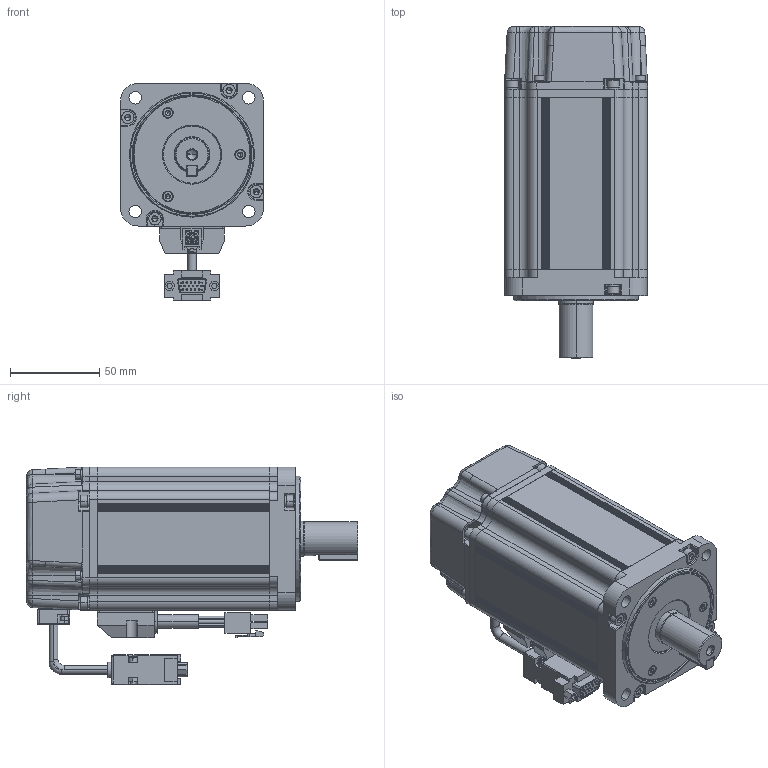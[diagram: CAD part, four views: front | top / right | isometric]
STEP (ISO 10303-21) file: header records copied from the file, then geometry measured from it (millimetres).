
FILE_DESCRIPTION((''),'2;1');
FILE_NAME('SV-ML80-0R7G-1A0_ASM','2018-05-04T',('q'),(''),'PRO/ENGINEER BY PARAMETRIC TECHNOLOGY CORPORATION, 2009440','PRO/ENGINEER BY PARAMETRIC TECHNOLOGY CORPORATION, 2009440','');
FILE_SCHEMA(('CONFIG_CONTROL_DESIGN'));
Products named in the file (25): 80-750W-Z; 80-750W-ZZ_ASM; 80-Q; GB-T276-6004; 80-MFDP; 80-ZCYG; GB-T9877-20X32X6L; GB-T93-3; GB-T70-M3X12; GB-T93-4; GB-T70-M4X20; 80-Q_ASM; 80-750-JK; DYX-CT; DYX-YXH; 80-750-DZ_ASM; 80-HDG; 36023662; 80_2; XHX; GB-T93-2R5; GB-T70-M2R5X8; XHX-ZJ; DYX-ZJ; SV-ML80-0R7G-1A0_ASM
Assembly tree (52 placements, depth 3):
  SV-ML80-0R7G-1A0_ASM
    80-750W-ZZ_ASM
      80-750W-Z
    80-Q_ASM
      80-Q
      GB-T276-6004
      80-MFDP
      80-ZCYG
      GB-T9877-20X32X6L
      GB-T93-3  x3
      GB-T70-M3X12  x3
      GB-T93-4  x4
      GB-T70-M4X20  x4
    80-750-DZ_ASM
      80-750-JK
      DYX-CT
      DYX-YXH
    80-HDG
    36023662
    80_2
    XHX
    GB-T93-2R5  x2
    GB-T70-M2R5X8  x2
    XHX-ZJ
    DYX-ZJ
    GB-T93-3  x4
    GB-T70-M3X12  x4
    GB-T93-4  x4
    GB-T70-M4X20  x4
Bounding box: 80.14 x 185.9 x 121.98 mm (x, y, z)
Volume: 350248.8 mm3; surface area: 186748.6 mm2
Topology: 49 solids, 70 shells, 2794 faces, 6584 edges, 4027 vertices
Faces by surface type: plane 1322, cylinder 796, cone 320, bspline 158, torus 145, sphere 49, extrusion 4
Entity records: 94174 total; most frequent: CARTESIAN_POINT 24883, DIRECTION 10929, ORIENTED_EDGE 10770, PRESENTATION_STYLE_ASSIGNMENT 5433, STYLED_ITEM 5433, CURVE_STYLE 5405, EDGE_CURVE 5405, AXIS2_PLACEMENT_3D 3893
